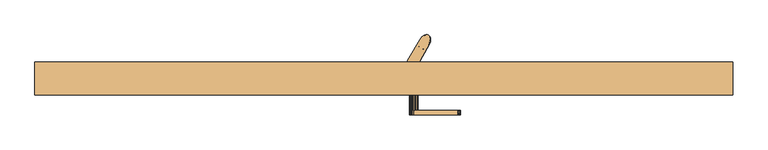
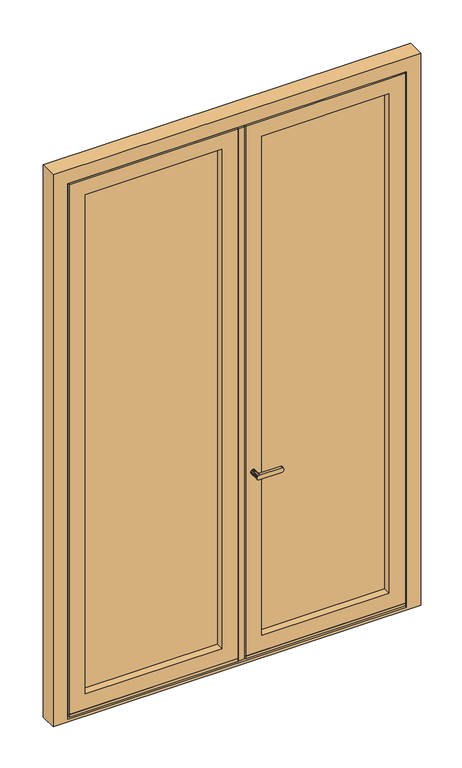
"""IFC4 building model written with IfcOpenShell, lengths in millimetres: door geometry, SAS ENTREE RDC 2x90."""

from ifc_helpers import new_model, si_unit, frame, origin, place, context, project, spatial, polyline, outline, extrude, faceted_brep, source, transform, mapped, element, save


def door_9c74e782(model_context):
    return source(origin(), model_context, "Body", "SolidModel", [
        extrude(outline(polyline([(1078.5704527, -24.0), (1774.5704527, -24.0), (1774.5704527, -62.0), (1078.5704527, -62.0), (1078.5704527, -24.0)])), frame((0.0, 0.0, 260.0), z_axis=(0.0, 0.0, 1.0), x_axis=(1.0, 0.0, 0.0)), (0.0, 0.0, 1.0), 2797.0),
        extrude(outline(polyline([(1001.5704527, -103.0), (969.5704527, -103.0), (969.5704527, -94.7), (1001.5704527, -94.7), (1001.5704527, -103.0)])), frame((0.0, 0.0, 176.0160203), z_axis=(0.0, 0.0, 1.0), x_axis=(1.0, 0.0, 0.0)), (0.0, 0.0, 1.0), 2950.9839797),
        extrude(outline(polyline([(899.5704527, -62.0), (153.0, -62.0), (153.0, -24.0), (899.5704527, -24.0), (899.5704527, -62.0)])), frame((0.0, 0.0, 260.0), z_axis=(0.0, 0.0, 1.0), x_axis=(1.0, 0.0, 0.0)), (0.0, 0.0, 1.0), 2797.0),
        faceted_brep([(1851.5704527, -103.0, 3134.0), (1851.5704527, -94.7, 3134.0), (1851.5704527, -94.7, 167.8651688), (1851.5704527, -103.0, 165.0072496), (76.0, -94.7, 3134.0), (76.0, -94.7, 167.8651688), (55.5, -94.7, 167.8651688), (55.5, -94.7, 3154.5), (1872.0704527, -94.7, 3154.5), (1872.0704527, -94.7, 167.8651688), (1872.0704527, -21.3, 3154.5), (1872.0704527, -21.3, 164.3), (1872.0704527, -81.0, 164.3), (1872.0704527, -81.0, 170.0), (1872.0704527, -88.5, 170.0), (1883.5704527, -13.0006635, 150.0), (1883.5704527, -21.3, 150.0), (1883.5704527, -21.3, 3166.0), (1883.5704527, -13.0006635, 3166.0), (1927.5704527, -13.0006635, 150.0), (44.0, -13.0006635, 3166.0), (44.0, -13.0006635, 150.0), (0.0, -13.0006635, 150.0), (0.0, -13.0006635, 3210.0), (1927.5704527, -13.0006635, 3210.0), (76.0, -103.0, 3134.0), (76.0, -103.0, 165.0072496), (44.0, -21.3, 3166.0), (44.0, -21.3, 150.0), (55.5, -21.3, 3154.5), (55.5, -88.5, 170.0), (55.5, -81.0, 170.0), (55.5, -81.0, 164.3), (55.5, -21.3, 164.3), (0.0, -103.0, 3210.0), (1927.5704527, -103.0, 3210.0), (1927.5704527, -103.0, 150.0), (0.0, -103.0, 150.0)], [[[0, 1, 2, 3]], [[1, 4, 5, 6, 7, 8, 9, 2]], [[8, 10, 11, 12, 13, 14, 9]], [[15, 16, 17, 18]], [[19, 15, 18, 20, 21, 22, 23, 24]], [[4, 25, 26, 5]], [[20, 27, 28, 21]], [[29, 7, 6, 30, 31, 32, 33]], [[25, 4, 1, 0]], [[27, 20, 18, 17]], [[23, 34, 35, 24]], [[8, 7, 29, 10]], [[19, 24, 35, 36]], [[34, 23, 22, 37]], [[35, 34, 37, 36], [25, 0, 3, 26]], [[16, 15, 19, 36, 37, 22, 21, 28]], [[14, 30, 6, 5, 26, 3, 2, 9]], [[27, 17, 16, 28], [11, 10, 29, 33]], [[32, 12, 11, 33]], [[12, 32, 31, 13]], [[13, 31, 30, 14]]]),
        faceted_brep([(997.0704527, -94.7, 3138.5), (997.0704527, -21.3, 3138.5), (997.0704527, -21.3, 178.5), (997.0704527, -94.7, 178.5), (976.5704527, -21.3, 3159.0), (976.5704527, -21.3, 158.0), (1876.5704527, -21.3, 158.0), (1876.5704527, -21.3, 3159.0), (1856.0704527, -21.3, 3138.5), (1856.0704527, -21.3, 178.5), (1856.0704527, -94.7, 178.5), (1856.0704527, -94.7, 3138.5), (1844.5704527, -94.7, 3127.0), (1844.5704527, -94.7, 190.0), (1008.5704527, -94.7, 190.0), (1008.5704527, -94.7, 3127.0), (1008.5704527, -103.0, 3127.0), (1008.5704527, -103.0, 190.0), (1844.5704527, -103.0, 190.0), (1844.5704527, -103.0, 3127.0), (1759.5704221, -103.0, 3041.9999695), (1759.5704221, -103.0, 275.0000305), (1093.5704832, -103.0, 275.0000305), (1093.5704832, -103.0, 3041.9999695), (1093.5704832, -62.0, 3041.9999695), (1093.5704832, -62.0, 275.0000305), (1759.5704221, -62.0, 275.0000305), (1774.5704527, -62.0, 3057.0), (1774.5704527, -62.0, 260.0), (1078.5704527, -62.0, 260.0), (1078.5704527, -62.0, 3057.0), (1759.5704221, -62.0, 3041.9999695), (1078.5704527, -24.0, 3057.0), (1078.5704527, -24.0, 260.0), (1774.5704527, -24.0, 260.0), (1774.5704527, -24.0, 3057.0), (1757.5704527, -24.0, 3040.0), (1757.5704527, -24.0, 277.0), (1095.5704527, -24.0, 277.0), (1095.5704527, -24.0, 3040.0), (1095.5704527, -13.0, 3040.0), (1095.5704527, -13.0, 277.0), (1757.5704527, -13.0, 277.0), (1876.5704527, -13.0, 3159.0), (1876.5704527, -13.0, 158.0), (976.5704527, -13.0, 158.0), (976.5704527, -13.0, 3159.0), (1757.5704527, -13.0, 3040.0)], [[[0, 1, 2, 3]], [[4, 5, 6, 7], [8, 9, 2, 1]], [[3, 2, 9, 10]], [[0, 3, 10, 11], [12, 13, 14, 15]], [[16, 15, 14, 17]], [[17, 14, 13, 18]], [[16, 17, 18, 19], [20, 21, 22, 23]], [[24, 23, 22, 25]], [[25, 22, 21, 26]], [[27, 28, 29, 30], [24, 25, 26, 31]], [[32, 30, 29, 33]], [[33, 29, 28, 34]], [[32, 33, 34, 35], [36, 37, 38, 39]], [[40, 39, 38, 41]], [[41, 38, 37, 42]], [[43, 44, 45, 46], [40, 41, 42, 47]], [[4, 46, 45, 5]], [[5, 45, 44, 6]], [[10, 9, 8, 11]], [[18, 13, 12, 19]], [[26, 21, 20, 31]], [[34, 28, 27, 35]], [[42, 37, 36, 47]], [[6, 44, 43, 7]], [[11, 8, 1, 0]], [[19, 12, 15, 16]], [[31, 20, 23, 24]], [[35, 27, 30, 32]], [[47, 36, 39, 40]], [[7, 43, 46, 4]]]),
        faceted_brep([(168.0000305, -62.0, 3041.9999695), (168.0000305, -103.0, 3041.9999695), (168.0000305, -103.0, 275.0000305), (168.0000305, -62.0, 275.0000305), (83.0, -103.0, 3127.0), (83.0, -103.0, 190.0), (969.5704527, -103.0, 190.0), (969.5704527, -103.0, 3127.0), (884.5704221, -103.0, 3041.9999695), (884.5704221, -103.0, 275.0000305), (884.5704221, -62.0, 275.0000305), (153.0, -62.0, 260.0), (153.0, -62.0, 3057.0), (899.5704527, -62.0, 3057.0), (899.5704527, -62.0, 260.0), (884.5704221, -62.0, 3041.9999695), (153.0, -24.0, 3057.0), (153.0, -24.0, 260.0), (899.5704527, -24.0, 260.0), (899.5704527, -24.0, 3057.0), (170.0, -24.0, 277.0), (170.0, -24.0, 3040.0), (882.5704527, -24.0, 3040.0), (882.5704527, -24.0, 277.0), (170.0, -13.0, 3040.0), (170.0, -13.0, 277.0), (882.5704527, -13.0, 277.0), (51.0, -13.0, 158.0), (51.0, -13.0, 3159.0), (969.5704527, -13.0, 3159.0), (969.5704527, -13.0, 158.0), (882.5704527, -13.0, 3040.0), (51.0, -21.3, 3159.0), (51.0, -21.3, 158.0), (969.5704527, -21.3, 158.0), (969.5704527, -21.3, 178.5), (71.5, -21.3, 178.5), (71.5, -21.3, 3138.5), (969.5704527, -21.3, 3138.5), (969.5704527, -21.3, 3159.0), (71.5, -94.7, 3138.5), (71.5, -94.7, 178.5), (981.0704527, -21.3, 178.5), (981.0704527, -94.7, 178.5), (981.0704527, -94.7, 3138.5), (83.0, -94.7, 190.0), (83.0, -94.7, 3127.0), (969.5704527, -94.7, 3127.0), (969.5704527, -94.7, 190.0), (981.0704527, -21.3, 3138.5)], [[[0, 1, 2, 3]], [[4, 5, 6, 7], [2, 1, 8, 9]], [[3, 2, 9, 10]], [[11, 12, 13, 14], [0, 3, 10, 15]], [[16, 12, 11, 17]], [[17, 11, 14, 18]], [[16, 17, 18, 19], [20, 21, 22, 23]], [[24, 21, 20, 25]], [[25, 20, 23, 26]], [[27, 28, 29, 30], [24, 25, 26, 31]], [[32, 28, 27, 33]], [[33, 27, 30, 34]], [[32, 33, 34, 35, 36, 37, 38, 39]], [[40, 37, 36, 41]], [[41, 36, 35, 42, 43]], [[40, 41, 43, 44], [45, 46, 47, 48]], [[4, 46, 45, 5]], [[5, 45, 48, 6]], [[10, 9, 8, 15]], [[18, 14, 13, 19]], [[26, 23, 22, 31]], [[43, 42, 49, 44]], [[1, 0, 15, 8]], [[12, 16, 19, 13]], [[21, 24, 31, 22]], [[28, 32, 39, 29]], [[37, 40, 44, 49, 38]], [[46, 4, 7, 47]], [[38, 35, 34, 30, 29, 39]], [[35, 38, 49, 42]], [[6, 48, 47, 7]]]),
        faceted_brep([(1091.7991957, 56.5957857, 3103.5), (1089.9094486, 59.5301259, 3103.5), (1087.3502122, 61.6325784, 3103.5), (1084.2498173, 62.7977178, 3103.5), (1080.7637307, 62.9671188, 3103.5), (1077.0667594, 62.1322872, 3103.5), (1073.3442849, 60.3350848, 3103.5), (1069.7829676, 57.6656309, 3103.5), (1066.5613869, 54.257783, 3103.5), (1063.8410862, 50.2824248, 3103.5), (1061.7584728, 45.9388975, 3103.5), (1060.4179777, 41.4450036, 3103.5), (1059.8868187, 37.0260857, 3103.5), (1060.1916306, 32.9037268, 3103.5), (1061.3171287, 29.2846393, 3103.5), (1063.2068759, 26.3502991, 3103.5), (1065.7661123, 24.2478466, 3103.5), (1068.8665071, 23.0827073, 3103.5), (1072.3525937, 22.9133062, 3103.5), (1076.049565, 23.7481378, 3103.5), (1079.7720396, 25.5453402, 3103.5), (1083.3333568, 28.2147941, 3103.5), (1086.5549376, 31.622642, 3103.5), (1089.2752383, 35.5980002, 3103.5), (1091.3578516, 39.9415275, 3103.5), (1092.6983468, 44.4354214, 3103.5), (1093.2295057, 48.8543393, 3103.5), (1092.9246939, 52.9766982, 3103.5), (1068.8665071, 23.0827073, 213.5), (1065.7661123, 24.2478466, 213.5), (1063.2068759, 26.3502991, 213.5), (1061.3171287, 29.2846393, 213.5), (1060.1916306, 32.9037268, 213.5), (1059.8868187, 37.0260857, 213.5), (1060.4179777, 41.4450036, 213.5), (1061.7584728, 45.9388975, 213.5), (1063.8410862, 50.2824248, 213.5), (1066.5613869, 54.257783, 213.5), (1069.7829676, 57.6656309, 213.5), (1073.3442849, 60.3350848, 213.5), (1077.0667594, 62.1322872, 213.5), (1080.7637307, 62.9671188, 213.5), (1084.2498173, 62.7977178, 213.5), (1087.3502122, 61.6325784, 213.5), (1089.9094486, 59.5301259, 213.5), (1091.7991957, 56.5957857, 213.5), (1092.9246939, 52.9766982, 213.5), (1093.2295057, 48.8543393, 213.5), (1092.6983468, 44.4354214, 213.5), (1091.3578516, 39.9415275, 213.5), (1089.2752383, 35.5980002, 213.5), (1086.5549376, 31.622642, 213.5), (1083.3333568, 28.2147941, 213.5), (1079.7720396, 25.5453402, 213.5), (1076.049565, 23.7481378, 213.5), (1072.3525937, 22.9133062, 213.5), (1087.1209854, 61.7609343, 3039.7612202), (1092.4619452, 54.8611962, 306.3237695), (1089.2752383, 35.5980002, 304.783489), (1078.9301597, 62.6737836, 3010.676228), (1078.9301582, 62.6737832, 297.4293988), (1085.8584944, 62.3371113, 368.0172447), (1073.8975018, 60.6633417, 369.3240477), (1080.3292739, 62.9198052, 446.6944318), (1088.7062148, 60.6929778, 2948.98274), (1093.2371765, 49.4975723, 2947.6759605), (1091.9806862, 56.1834463, 2875.4794892), (1086.2481362, 62.18144, 2387.972511), (1074.4721885, 60.9813242, 2433.366327), (1086.1883162, 62.2065607, 2478.1094389), (1089.2752383, 35.5980002, 3012.216511), (1063.8410862, 50.2824248, 3012.2165139), (1063.8410862, 50.2824248, 304.7834917), (1076.4602559, 61.90456, 2922.0327645), (1089.2752383, 35.5980002, 396.066978), (1093.0307284, 52.3375828, 394.9672499), (1087.5759854, 61.4982397, 277.2387736), (1077.0266332, 62.1179974, 1435.6433105), (1063.8410862, 50.2824248, 1400.1853585), (1063.8410862, 50.2824248, 1479.816978), (1063.8410862, 50.2824248, 1491.4688445), (1085.5101202, 62.4609039, 526.5775533), (1090.3785717, 58.9617113, 459.8390978), (1075.2369264, 61.3686784, 2789.8337304), (1085.0821002, 62.5941609, 2731.5722903), (1074.3099418, 60.8939051, 2701.4632106), (1092.4619444, 54.8611986, 3019.5705949), (1063.8410862, 50.2824248, 943.7679112), (1074.9719462, 61.2390529, 991.9541054), (1075.7221037, 61.5934845, 898.1262183), (1063.8410862, 50.2824248, 2920.9330222), (1063.8410862, 50.2824248, 2746.1339598), (1063.8410862, 50.2824248, 2829.649533), (1063.8410862, 50.2824248, 2833.533491), (1091.0038999, 58.0659174, 753.748835), (1093.2104353, 50.5037097, 806.8427277), (1093.2054769, 48.2518328, 715.5592395), (1087.8126466, 61.3485788, 2283.8905959), (1090.0835429, 59.3281065, 2186.2171541), (1075.8077605, 61.6314948, 2242.6546305), (1076.4110471, 61.8849811, 1613.8704529), (1088.4363082, 60.9071638, 1569.1585234), (1076.8220603, 62.0434335, 1517.9321883), (1093.1769016, 51.0285127, 2607.3749737), (1086.6511666, 62.0001544, 2567.4509478), (1087.1020652, 61.771178, 2656.7924568), (1088.4625465, 60.8869902, 938.4578574), (1087.3502122, 61.6325784, 1035.0514496), (1093.2362974, 49.2320884, 1881.8538044), (1089.2752383, 35.5980002, 1926.524533), (1089.2752383, 35.5980002, 1852.7188463), (1089.2752383, 35.5980002, 1837.183022), (1075.6623682, 61.5666791, 1085.9473652), (1078.3011062, 62.517869, 1168.8726905), (1088.5387979, 60.8275832, 1125.837811), (1088.6286842, 60.7560369, 1300.8775569), (1093.2283694, 50.0537925, 1256.4632408), (1088.4850519, 60.8695777, 1212.7139165), (1088.4363083, 60.9071638, 1658.5823811), (1087.8126467, 61.3485788, 1747.8415416), (1093.2162113, 50.3830403, 1705.6035919), (1093.2372442, 49.4091556, 2149.8783316), (1089.2752383, 35.5980002, 2194.5490659), (1089.2752383, 35.5980002, 2120.7433801), (1089.2752383, 35.5980002, 2105.2075549), (1074.6748041, 61.0879095, 1899.8226875), (1074.4624677, 60.9761385, 1808.0481216), (1063.8410862, 50.2824248, 1852.7188452), (1075.0361549, 61.2709086, 2612.1217017), (1093.2339742, 49.8128215, 1527.5583067), (1089.2752383, 35.5980002, 1569.158489), (1089.2752383, 35.5980002, 1491.4688485), (1089.2752383, 35.5980002, 1479.816978), (1086.895396, 61.879689, 1844.8045559), (1093.170584, 51.1083165, 1797.4267243), (1074.4655794, 60.9777992, 2522.7801928), (1063.8410862, 50.2824248, 2478.1094254), (1084.2135006, 62.8050118, 2868.0801076), (1088.5717657, 60.8015344, 2802.6217509), (1087.5327094, 61.5246154, 1475.3268617), (1063.8410862, 50.2824248, 852.4844195), (1089.2752383, 35.5980002, 1301.133956), (1089.2752383, 35.5980002, 1217.6183797), (1089.2752383, 35.5980002, 1211.7924451), (1074.9612481, 61.2337175, 1718.7066128), (1063.8410862, 50.2824248, 1763.3773338), (1093.2128573, 50.4549077, 2418.8738478), (1093.2115617, 50.481305, 2327.1169999), (1076.1879995, 61.7941617, 1263.2601666), (1063.8410862, 50.2824248, 1217.618375), (1063.8410862, 50.2824248, 1301.133956), (1063.8410862, 50.2824248, 1308.9018668), (1089.2752383, 35.5980002, 2373.2320879), (1063.8410862, 50.2824248, 1582.7523306), (1063.8410862, 50.2824248, 1658.5), (1063.8410862, 50.2824248, 1674.0358223), (1093.1881572, 50.8747832, 1077.7802226), (1093.225349, 50.1502613, 1167.1147796), (1093.212149, 50.4694262, 1349.0545448), (1093.1594418, 51.240021, 2510.1573349), (1089.2752383, 35.5980002, 2464.5155769), (1073.6679907, 60.5298181, 2076.0726483), (1075.3257706, 61.4110552, 1991.6458261), (1063.8410862, 50.2824248, 2031.4018682), (1089.8475711, 59.5995764, 682.8588012), (1089.2752383, 35.5980002, 578.633956), (1093.1612269, 51.219614, 532.9922607), (1093.2247016, 50.1692553, 621.3637247), (1087.5943164, 61.4869765, 1390.4755053), (1093.1421427, 51.4263296, 1441.7482187), (1093.1846099, 47.907579, 460.8624964), (1089.2752383, 35.5980002, 487.350467), (1074.2396743, 60.8554716, 511.4648929), (1070.6098057, 58.3765494, 453.7451278), (1088.2994022, 61.0102415, 603.806908), (1089.2752383, 35.5980002, 669.9174451), (1087.3502121, 61.6325785, 841.8642654), (1093.2332204, 49.8535427, 898.126215), (1077.2057235, 62.1809238, 659.1547405), (1072.1308721, 59.5368909, 806.8427306), (1073.9355212, 60.6850987, 2856.6324745), (1077.8905671, 62.4012707, 583.1880996), (1063.8410862, 50.2824248, 2656.7924484), (1063.8410862, 50.2824248, 2738.366044), (1093.149763, 51.3466495, 2699.940621), (1092.8753504, 45.3587256, 2866.1656853), (1093.234926, 49.7539259, 2807.3986574), (1063.8410862, 50.2824248, 2567.4509369), (1063.8410862, 50.2824248, 2647.0825549), (1063.8410862, 50.2824248, 2388.767914), (1063.8410862, 50.2824248, 2464.5155769), (1075.3191999, 61.4079398, 2334.4675158), (1063.8410862, 50.2824248, 2210.0848911), (1063.8410862, 50.2824248, 2283.8905769), (1063.8410862, 50.2824248, 2299.4264025), (1089.2752383, 35.5980002, 2388.7679138), (1089.2752383, 35.5980002, 2555.7990659), (1089.2752383, 35.5980002, 2478.1094232), (1089.2752383, 35.5980002, 2738.366044), (1089.2752383, 35.5980002, 2656.7924475), (1089.2752383, 35.5980002, 2647.0825549), (1093.1783644, 51.0094265, 2235.3144708), (1089.2752383, 35.5980002, 2283.8905769), (1090.5492227, 58.7345832, 2121.0154935), (1063.8410862, 50.2824248, 578.6339556), (1071.8864186, 59.3627096, 2165.4141571), (1063.8410862, 50.2824248, 2120.7433796), (1063.8410862, 50.2824248, 2194.5490659), (1092.2974639, 55.3594205, 2060.5368228), (1089.2752383, 35.5980002, 2031.4018707), (1089.2752383, 35.5980002, 2015.866044), (1093.199264, 50.7039869, 1971.1953135), (1084.5993621, 62.7208451, 2041.9850456), (1063.8410862, 50.2824248, 2555.7990659), (1089.2752383, 35.5980002, 2210.0848951), (1089.2752383, 35.5980002, 2299.4264044), (1089.2752383, 35.5980002, 1033.1094231), (1093.225326, 50.1509445, 988.4387133), (1089.2752383, 35.5980002, 2567.4509325), (1063.8410862, 50.2824248, 396.0669778), (1089.2752383, 35.5980002, 2829.649533), (1089.2752383, 35.5980002, 2920.933022), (1089.2752383, 35.5980002, 2746.1339569), (1089.2752383, 35.5980002, 761.2009341), (1082.935426, 62.9831179, 2138.6482318), (1071.3615587, 58.9730561, 719.6075288), (1063.8410862, 50.2824248, 669.9174473), (1081.0963306, 62.9937381, 754.3114731), (1063.8410862, 50.2824248, 761.2009334), (1089.2752383, 35.5980002, 852.4844231), (1089.2752383, 35.5980002, 943.7679121), (1063.8410862, 50.2824248, 1035.0514029), (1063.8410862, 50.2824248, 1126.334889), (1063.8410862, 50.2824248, 1211.7924451), (1074.7954478, 61.1500152, 1354.5436536), (1063.8410862, 50.2824248, 1390.475467), (1089.2752383, 35.5980002, 1122.4509341), (1089.2752383, 35.5980002, 1035.0514006), (1063.8410862, 50.2824248, 1122.4509341), (1063.8410862, 50.2824248, 1033.1094231), (1089.2752383, 35.5980002, 1126.3348901), (1089.2752383, 35.5980002, 1400.1853589), (1089.2752383, 35.5980002, 1390.475467), (1093.2256812, 50.1403125, 1613.8292772), (1089.2752383, 35.5980002, 1308.9018693), (1089.2752383, 35.5980002, 1658.5), (1089.2752383, 35.5980002, 1582.752338), (1089.2752383, 35.5980002, 1763.377337), (1089.2752383, 35.5980002, 1747.841511), (1063.8410862, 50.2824248, 1569.158489), (1089.2752383, 35.5980002, 1942.0603613), (1063.8410862, 50.2824248, 1747.841511), (1086.8730441, 61.891059, 1942.0603856), (1063.8410862, 50.2824248, 1837.183022), (1063.8410862, 50.2824248, 1942.0603567), (1063.8410862, 50.2824248, 2105.2075549), (1089.2752383, 35.5980002, 1674.0358276), (1063.8410862, 50.2824248, 2015.866044), (1063.8410862, 50.2824248, 1926.524533), (1063.8410862, 50.2824248, 487.3504639), (1063.8410862, 50.2824248, 2373.2320879), (1089.2752383, 35.5980002, 2833.5334917), (1065.9953391, 24.1194907, 3039.7612202), (1060.6543793, 31.0192288, 306.3237695), (1074.1861648, 23.2066414, 3010.676228), (1074.1861662, 23.2066418, 297.4293988), (1067.2578301, 23.5433137, 368.0172447), (1079.2188227, 25.2170833, 369.3240477), (1072.7870506, 22.9606198, 446.6944318), (1064.4101097, 25.1874472, 2948.98274), (1059.8791479, 36.3828527, 2947.6759605), (1061.1356383, 29.6969787, 2875.4794892), (1066.8681882, 23.698985, 2387.972511), (1078.644136, 24.8991008, 2433.366327), (1066.9280082, 23.6738643, 2478.1094389), (1076.6560685, 23.975865, 2922.0327645), (1060.0855961, 33.5428422, 394.9672499), (1065.5403391, 24.3821853, 277.2387736), (1076.0896912, 23.7624276, 1435.6433105), (1067.6062043, 23.4195211, 526.5775533), (1062.7377527, 26.9187137, 459.8390978), (1077.8793981, 24.5117466, 2789.8337304), (1068.0342243, 23.2862641, 2731.5722903), (1078.8063827, 24.9865199, 2701.4632106), (1060.65438, 31.0192264, 3019.5705949), (1078.1443782, 24.6413721, 991.9541054), (1077.3942208, 24.2869405, 898.1262183), (1062.1124246, 27.8145076, 753.748835), (1059.9058892, 35.3767153, 806.8427277), (1059.9108476, 37.6285922, 715.5592395), (1065.3036778, 24.5318462, 2283.8905959), (1063.0327816, 26.5523186, 2186.2171541), (1077.308564, 24.2489302, 2242.6546305), (1076.7052774, 23.9954439, 1613.8704529), (1064.6800163, 24.9732612, 1569.1585234), (1076.2942642, 23.8369915, 1517.9321883), (1059.9394228, 34.8519123, 2607.3749737), (1066.4651579, 23.8802706, 2567.4509478), (1066.0142593, 24.109247, 2656.7924568), (1064.653778, 24.9934348, 938.4578574), (1065.7661122, 24.2478466, 1035.0514496), (1059.880027, 36.6483366, 1881.8538044), (1077.4539563, 24.3137459, 1085.9473652), (1074.8152182, 23.362556, 1168.8726905), (1064.5775265, 25.0528418, 1125.837811), (1064.4876403, 25.1243881, 1300.8775569), (1059.8879551, 35.8266325, 1256.4632408), (1064.6312726, 25.0108473, 1212.7139165), (1064.6800162, 24.9732612, 1658.5823811), (1065.3036778, 24.5318462, 1747.8415416), (1059.9001132, 35.4973847, 1705.6035919), (1059.8790802, 36.4712695, 2149.8783316), (1078.4415204, 24.7925155, 1899.8226875), (1078.6538568, 24.9042865, 1808.0481216), (1078.0801695, 24.6095164, 2612.1217017), (1059.8823503, 36.0676035, 1527.5583067), (1066.2209284, 24.000736, 1844.8045559), (1059.9457405, 34.7721085, 1797.4267243), (1078.650745, 24.9026258, 2522.7801928), (1068.9028238, 23.0754132, 2868.0801076), (1064.5445587, 25.0788906, 2802.6217509), (1065.5836151, 24.3558096, 1475.3268617), (1078.1550763, 24.6467075, 1718.7066128), (1059.9034672, 35.4255173, 2418.8738478), (1059.9047627, 35.39912, 2327.1169999), (1076.928325, 24.0862633, 1263.2601666), (1059.9281672, 35.0056418, 1077.7802226), (1059.8909754, 35.7301637, 1167.1147796), (1059.9041755, 35.4109988, 1349.0545448), (1059.9568826, 34.640404, 2510.1573349), (1079.4483337, 25.3506069, 2076.0726483), (1077.7905539, 24.4693698, 1991.6458261), (1063.2687534, 26.2808486, 682.8588012), (1059.9550976, 34.660811, 532.9922607), (1059.8916228, 35.7111697, 621.3637247), (1065.5220081, 24.3934485, 1390.4755053), (1059.9741817, 34.4540954, 1441.7482187), (1059.9317145, 37.972846, 460.8624964), (1078.8766501, 25.0249534, 511.4648929), (1082.5065187, 27.5038756, 453.7451278), (1064.8169223, 24.8701835, 603.806908), (1065.7661124, 24.2478465, 841.8642654), (1059.8831041, 36.0268823, 898.126215), (1075.910601, 23.6995012, 659.1547405), (1080.9854524, 26.3435341, 806.8427306), (1079.1808033, 25.1953263, 2856.6324745), (1075.2257574, 23.4791543, 583.1880996), (1059.9665615, 34.5337755, 2699.940621), (1060.240974, 40.5216994, 2866.1656853), (1059.8813985, 36.1264991, 2807.3986574), (1077.7971246, 24.4724852, 2334.4675158), (1059.9379601, 34.8709985, 2235.3144708), (1062.5671018, 27.1458418, 2121.0154935), (1081.2299058, 26.5177154, 2165.4141571), (1060.8188606, 30.5210045, 2060.5368228), (1059.9170605, 35.1764381, 1971.1953135), (1068.5169624, 23.1595799, 2041.9850456), (1059.8909984, 35.7294805, 988.4387133), (1070.1808985, 22.8973071, 2138.6482318), (1081.7547658, 26.9073689, 719.6075288), (1072.0199938, 22.8866869, 754.3114731), (1078.3208766, 24.7304098, 1354.5436536), (1059.8906433, 35.7401125, 1613.8292772), (1066.2432803, 23.989366, 1942.0603856)], [[[0, 1, 2, 3, 4, 5, 6, 7, 8, 9, 10, 11, 12, 13, 14, 15, 16, 17, 18, 19, 20, 21, 22, 23, 24, 25, 26, 27]], [[28, 29, 30, 31, 32, 33, 34, 35, 36, 37, 38, 39, 40, 41, 42, 43, 44, 45, 46, 47, 48, 49, 50, 51, 52, 53, 54, 55]], [[2, 1, 56]], [[57, 58, 48]], [[59, 7, 6]], [[5, 4, 59]], [[38, 60, 39]], [[61, 62, 63]], [[4, 3, 56]], [[64, 65, 66]], [[40, 60, 41]], [[67, 68, 69]], [[24, 23, 70]], [[58, 50, 49]], [[71, 9, 8]], [[37, 36, 72]], [[73, 59, 64]], [[60, 40, 39]], [[74, 58, 75]], [[45, 76, 57]], [[77, 78, 79, 80]], [[71, 8, 7]], [[63, 81, 82]], [[83, 84, 85]], [[25, 86, 26]], [[24, 70, 25]], [[87, 88, 89]], [[75, 58, 57]], [[72, 62, 60]], [[5, 59, 6]], [[90, 71, 73]], [[70, 65, 86]], [[42, 41, 76]], [[46, 57, 47]], [[83, 91, 92, 93]], [[94, 95, 96]], [[43, 42, 76]], [[97, 98, 99]], [[86, 27, 26]], [[100, 101, 102]], [[4, 56, 59]], [[64, 56, 86]], [[103, 104, 105]], [[46, 45, 57]], [[58, 49, 48]], [[76, 41, 60]], [[59, 71, 7]], [[45, 44, 76]], [[56, 1, 0]], [[75, 57, 61]], [[61, 76, 60]], [[27, 86, 0]], [[47, 57, 48]], [[37, 72, 38]], [[106, 88, 107]], [[0, 86, 56]], [[38, 72, 60]], [[73, 71, 59]], [[64, 86, 65]], [[61, 60, 62]], [[25, 70, 86]], [[108, 109, 110, 111]], [[112, 113, 114]], [[115, 116, 117]], [[118, 119, 120]], [[121, 122, 123, 124]], [[125, 126, 127]], [[105, 104, 128]], [[129, 130, 131, 132]], [[133, 134, 119]], [[135, 68, 136]], [[137, 66, 138]], [[139, 101, 129]], [[89, 140, 87]], [[116, 141, 142, 143]], [[126, 144, 145]], [[146, 147, 67]], [[148, 149, 150, 151]], [[152, 147, 146]], [[134, 120, 119]], [[100, 153, 154, 155]], [[156, 114, 157]], [[116, 115, 158]], [[146, 159, 160]], [[161, 162, 163]], [[96, 164, 94]], [[165, 166, 167]], [[68, 135, 69]], [[104, 103, 159]], [[100, 144, 118]], [[168, 169, 158]], [[170, 171, 74]], [[172, 63, 173]], [[165, 171, 166]], [[167, 166, 174]], [[175, 167, 96]], [[166, 170, 82]], [[82, 81, 166]], [[176, 177, 95]], [[178, 164, 174]], [[176, 179, 89]], [[180, 93, 90]], [[181, 178, 174]], [[85, 182, 183, 91]], [[105, 184, 103]], [[66, 185, 186]], [[91, 83, 85]], [[180, 137, 83]], [[137, 138, 83]], [[187, 128, 135]], [[128, 187, 188, 182]], [[85, 84, 105]], [[85, 128, 182]], [[128, 85, 105]], [[68, 189, 190, 136]], [[69, 135, 104]], [[189, 68, 191]], [[67, 191, 68]], [[99, 192, 193, 194]], [[191, 99, 194]], [[67, 97, 191]], [[146, 160, 195, 152]], [[103, 196, 159]], [[159, 196, 197, 160]], [[67, 69, 146]], [[184, 198, 199, 200]], [[103, 184, 200]], [[159, 146, 69]], [[97, 67, 147]], [[97, 147, 201]], [[147, 202, 201]], [[97, 99, 191]], [[121, 203, 98]], [[181, 204, 178]], [[205, 206, 207, 192]], [[208, 124, 209, 210]], [[122, 121, 201]], [[208, 211, 212]], [[135, 136, 213, 187]], [[128, 104, 135]], [[159, 69, 104]], [[201, 202, 214, 122]], [[147, 152, 215, 202]], [[201, 121, 98]], [[216, 217, 156]], [[157, 116, 143]], [[121, 124, 208]], [[73, 64, 137]], [[138, 184, 84]], [[103, 200, 218, 196]], [[172, 81, 63]], [[219, 62, 72]], [[75, 61, 82]], [[62, 173, 63]], [[172, 181, 81]], [[186, 185, 220]], [[221, 65, 70]], [[198, 184, 186]], [[65, 185, 66]], [[186, 138, 66]], [[138, 186, 184]], [[186, 220, 222, 198]], [[96, 223, 175]], [[164, 167, 174]], [[175, 165, 167]], [[192, 99, 205]], [[224, 99, 98]], [[63, 82, 61]], [[170, 75, 82]], [[225, 178, 226]], [[81, 174, 166]], [[178, 227, 164]], [[174, 81, 181]], [[226, 178, 204]], [[140, 179, 228]], [[227, 178, 225]], [[176, 89, 106]], [[225, 228, 179]], [[88, 106, 89]], [[229, 223, 95]], [[216, 230, 217]], [[177, 229, 95]], [[229, 177, 230]], [[94, 227, 176]], [[107, 88, 112]], [[88, 231, 112]], [[107, 112, 114]], [[113, 232, 233, 149]], [[117, 148, 115]], [[232, 113, 112]], [[234, 151, 235, 78]], [[236, 156, 157]], [[156, 236, 237, 216]], [[106, 107, 217]], [[156, 217, 107]], [[106, 217, 177]], [[230, 177, 217]], [[176, 106, 177]], [[112, 231, 238, 232]], [[88, 87, 239, 231]], [[117, 157, 114]], [[157, 143, 240, 236]], [[158, 141, 116]], [[117, 116, 157]], [[169, 132, 241, 242]], [[158, 169, 242]], [[129, 243, 130]], [[102, 101, 139]], [[115, 168, 158]], [[234, 168, 115]], [[113, 117, 114]], [[114, 156, 107]], [[158, 242, 244, 141]], [[245, 243, 120]], [[243, 245, 246, 130]], [[243, 101, 118]], [[134, 111, 247, 248]], [[120, 134, 248]], [[243, 118, 120]], [[101, 100, 118]], [[144, 119, 118]], [[100, 102, 153]], [[102, 80, 249, 153]], [[211, 210, 250, 109]], [[111, 134, 108]], [[133, 108, 134]], [[126, 125, 133]], [[144, 155, 251, 145]], [[210, 211, 208]], [[133, 252, 108]], [[126, 145, 253, 127]], [[155, 144, 100]], [[133, 119, 126]], [[151, 234, 148]], [[168, 139, 169]], [[78, 77, 234]], [[144, 126, 119]], [[252, 133, 125]], [[252, 125, 162]], [[125, 254, 162]], [[148, 234, 115]], [[77, 139, 168]], [[212, 211, 252]], [[161, 163, 255, 206]], [[113, 148, 117]], [[148, 113, 149]], [[243, 129, 101]], [[169, 129, 132]], [[120, 248, 256, 245]], [[162, 254, 257, 163]], [[125, 127, 258, 254]], [[259, 204, 172]], [[181, 172, 204]], [[259, 172, 173]], [[108, 211, 109]], [[252, 211, 108]], [[161, 224, 212]], [[162, 161, 212]], [[224, 161, 205]], [[162, 212, 252]], [[203, 208, 212]], [[129, 169, 139]], [[102, 139, 77]], [[80, 102, 77]], [[234, 77, 168]], [[191, 194, 260, 189]], [[66, 137, 64]], [[180, 73, 137]], [[73, 180, 90]], [[180, 83, 93]], [[223, 96, 95]], [[164, 96, 167]], [[75, 170, 74]], [[171, 170, 166]], [[95, 94, 176]], [[94, 164, 227]], [[201, 98, 97]], [[224, 98, 203]], [[224, 203, 212]], [[208, 203, 121]], [[227, 179, 176]], [[179, 140, 89]], [[206, 205, 161]], [[224, 205, 99]], [[173, 219, 259]], [[219, 173, 62]], [[185, 221, 261, 220]], [[221, 185, 65]], [[43, 76, 44]], [[57, 76, 61]], [[2, 56, 3]], [[59, 56, 64]], [[105, 84, 184]], [[138, 84, 83]], [[227, 225, 179]], [[228, 225, 226]], [[16, 15, 262]], [[263, 72, 34]], [[264, 21, 20]], [[19, 18, 264]], [[52, 265, 53]], [[266, 267, 268]], [[18, 17, 262]], [[269, 270, 271]], [[54, 265, 55]], [[272, 273, 274]], [[10, 9, 71]], [[72, 36, 35]], [[70, 23, 22]], [[51, 50, 58]], [[275, 264, 269]], [[265, 54, 53]], [[219, 72, 276]], [[31, 277, 263]], [[278, 241, 132, 131]], [[70, 22, 21]], [[268, 279, 280]], [[281, 282, 283]], [[11, 284, 12]], [[10, 71, 11]], [[230, 285, 286]], [[276, 72, 263]], [[58, 267, 265]], [[19, 264, 20]], [[221, 70, 275]], [[71, 270, 284]], [[28, 55, 277]], [[32, 263, 33]], [[281, 222, 220, 261]], [[287, 288, 289]], [[29, 28, 277]], [[290, 291, 292]], [[284, 13, 12]], [[293, 294, 295]], [[18, 262, 264]], [[269, 262, 284]], [[296, 297, 298]], [[32, 31, 263]], [[72, 35, 34]], [[277, 55, 265]], [[264, 70, 21]], [[31, 30, 277]], [[262, 15, 14]], [[276, 263, 266]], [[266, 277, 265]], [[13, 284, 14]], [[33, 263, 34]], [[51, 58, 52]], [[299, 285, 300]], [[14, 284, 262]], [[52, 58, 265]], [[275, 70, 264]], [[269, 284, 270]], [[266, 265, 267]], [[11, 71, 284]], [[301, 258, 127, 253]], [[302, 303, 304]], [[305, 306, 307]], [[308, 309, 310]], [[311, 207, 206, 255]], [[312, 313, 110]], [[298, 297, 314]], [[315, 249, 80, 79]], [[316, 317, 309]], [[318, 273, 197]], [[319, 271, 320]], [[321, 294, 315]], [[286, 229, 230]], [[306, 150, 149, 233]], [[313, 322, 247]], [[323, 324, 272]], [[325, 142, 141, 244]], [[260, 324, 323]], [[317, 310, 309]], [[293, 246, 245, 256]], [[326, 304, 327]], [[306, 305, 328]], [[323, 329, 190]], [[330, 331, 209]], [[289, 332, 287]], [[204, 333, 334]], [[273, 318, 274]], [[297, 296, 329]], [[293, 322, 308]], [[335, 336, 328]], [[337, 259, 219]], [[338, 268, 339]], [[204, 259, 333]], [[334, 333, 340]], [[226, 334, 289]], [[333, 337, 280]], [[280, 279, 333]], [[341, 342, 288]], [[343, 332, 340]], [[341, 344, 286]], [[345, 261, 221]], [[346, 343, 340]], [[283, 199, 198, 222]], [[298, 347, 296]], [[271, 348, 349]], [[222, 281, 283]], [[345, 319, 281]], [[319, 320, 281]], [[218, 314, 318]], [[314, 218, 200, 199]], [[283, 282, 298]], [[283, 314, 199]], [[314, 283, 298]], [[273, 195, 160, 197]], [[274, 318, 297]], [[195, 273, 350]], [[272, 350, 273]], [[292, 214, 202, 215]], [[350, 292, 215]], [[272, 290, 350]], [[323, 190, 189, 260]], [[296, 213, 329]], [[329, 213, 136, 190]], [[272, 274, 323]], [[347, 183, 182, 188]], [[296, 347, 188]], [[329, 323, 274]], [[290, 272, 324]], [[290, 324, 351]], [[324, 193, 351]], [[290, 292, 350]], [[311, 352, 291]], [[346, 165, 343]], [[353, 123, 122, 214]], [[354, 255, 163, 257]], [[207, 311, 351]], [[354, 355, 356]], [[318, 197, 196, 218]], [[314, 297, 318]], [[329, 274, 297]], [[351, 193, 192, 207]], [[324, 260, 194, 193]], [[351, 311, 291]], [[239, 357, 326]], [[327, 306, 233]], [[311, 255, 354]], [[275, 269, 319]], [[320, 347, 282]], [[296, 188, 187, 213]], [[338, 279, 268]], [[74, 267, 58]], [[276, 266, 280]], [[267, 339, 268]], [[338, 346, 279]], [[349, 348, 92]], [[90, 270, 71]], [[183, 347, 349]], [[270, 348, 271]], [[349, 320, 271]], [[320, 349, 347]], [[349, 92, 91, 183]], [[289, 228, 226]], [[332, 334, 340]], [[226, 204, 334]], [[214, 292, 353]], [[358, 292, 291]], [[268, 280, 266]], [[337, 276, 280]], [[359, 343, 175]], [[279, 340, 333]], [[343, 360, 332]], [[340, 279, 346]], [[175, 343, 165]], [[229, 344, 223]], [[360, 343, 359]], [[341, 286, 299]], [[359, 223, 344]], [[285, 299, 286]], [[140, 228, 288]], [[239, 87, 357]], [[342, 140, 288]], [[140, 342, 87]], [[287, 360, 341]], [[300, 285, 302]], [[285, 237, 302]], [[300, 302, 304]], [[303, 240, 143, 142]], [[307, 325, 305]], [[240, 303, 302]], [[361, 244, 242, 241]], [[238, 326, 327]], [[326, 238, 231, 239]], [[299, 300, 357]], [[326, 357, 300]], [[299, 357, 342]], [[87, 342, 357]], [[341, 299, 342]], [[302, 237, 236, 240]], [[285, 230, 216, 237]], [[307, 327, 304]], [[327, 233, 232, 238]], [[328, 150, 306]], [[307, 306, 327]], [[336, 79, 78, 235]], [[328, 336, 235]], [[315, 362, 249]], [[295, 294, 321]], [[305, 335, 328]], [[361, 335, 305]], [[303, 307, 304]], [[304, 326, 300]], [[328, 235, 151, 150]], [[154, 362, 310]], [[362, 154, 153, 249]], [[362, 294, 308]], [[317, 253, 145, 251]], [[310, 317, 251]], [[362, 308, 310]], [[294, 293, 308]], [[322, 309, 308]], [[293, 295, 246]], [[295, 131, 130, 246]], [[355, 257, 254, 258]], [[253, 317, 301]], [[316, 301, 317]], [[313, 312, 316]], [[322, 256, 248, 247]], [[257, 355, 354]], [[316, 363, 301]], [[313, 247, 111, 110]], [[256, 322, 293]], [[316, 309, 313]], [[244, 361, 325]], [[335, 321, 336]], [[241, 278, 361]], [[322, 313, 309]], [[363, 316, 312]], [[363, 312, 331]], [[312, 250, 331]], [[325, 361, 305]], [[278, 321, 335]], [[356, 355, 363]], [[330, 209, 124, 123]], [[303, 325, 307]], [[325, 303, 142]], [[362, 315, 294]], [[336, 315, 79]], [[310, 251, 155, 154]], [[331, 250, 210, 209]], [[312, 110, 109, 250]], [[171, 165, 338]], [[346, 338, 165]], [[171, 338, 339]], [[301, 355, 258]], [[363, 355, 301]], [[330, 358, 356]], [[331, 330, 356]], [[358, 330, 353]], [[331, 356, 363]], [[352, 354, 356]], [[315, 336, 321]], [[295, 321, 278]], [[131, 295, 278]], [[361, 278, 335]], [[350, 215, 152, 195]], [[271, 319, 269]], [[345, 275, 319]], [[275, 345, 221]], [[345, 281, 261]], [[228, 289, 288]], [[332, 289, 334]], [[276, 337, 219]], [[259, 337, 333]], [[288, 287, 341]], [[287, 332, 360]], [[351, 291, 290]], [[358, 291, 352]], [[358, 352, 356]], [[354, 352, 311]], [[360, 344, 341]], [[344, 229, 286]], [[123, 353, 330]], [[358, 353, 292]], [[339, 74, 171]], [[74, 339, 267]], [[348, 90, 93, 92]], [[90, 348, 270]], [[29, 277, 30]], [[263, 277, 266]], [[16, 262, 17]], [[264, 262, 269]], [[298, 282, 347]], [[320, 282, 281]], [[360, 359, 344]], [[223, 359, 175]]]),
        faceted_brep([(1038.0932105, -103.0, 1208.4772421), (1040.5761373, -103.0, 1210.3824588), (1043.4675667, -103.0, 1211.5801281), (1046.5704527, -103.0, 1211.9886308), (1049.6733386, -103.0, 1211.5801281), (1052.5647681, -103.0, 1210.3824588), (1055.0476948, -103.0, 1208.4772421), (1056.9529115, -103.0, 1205.9943154), (1058.1505808, -103.0, 1203.102886), (1058.5590835, -103.0, 1200.0), (1058.1505808, -103.0, 1196.897114), (1056.9529115, -103.0, 1194.0056846), (1055.0476948, -103.0, 1191.5227579), (1052.5647681, -103.0, 1189.6175412), (1049.6733386, -103.0, 1188.4198719), (1046.5704527, -103.0, 1188.0113692), (1043.4675667, -103.0, 1188.4198719), (1040.5761373, -103.0, 1189.6175412), (1038.0932105, -103.0, 1191.5227579), (1036.1879938, -103.0, 1194.0056846), (1034.9903245, -103.0, 1196.897114), (1034.5818218, -103.0, 1200.0), (1034.9903245, -103.0, 1203.102886), (1036.1879938, -103.0, 1205.9943154), (1049.6733386, -146.4998825, 1188.4198719), (1046.5704527, -146.4998825, 1188.0113692), (1052.5647681, -146.4998825, 1189.6175412), (1056.9529115, -146.4998825, 1194.0056846), (1055.0476948, -146.4998825, 1191.5227579), (1058.1505808, -146.4998825, 1196.897114), (1058.5590835, -146.4998825, 1200.0), (1058.1505808, -146.4998825, 1203.102886), (1056.9529115, -146.4998825, 1205.9943154), (1052.5647681, -146.4998825, 1210.3824588), (1055.0476948, -146.4998825, 1208.4772421), (1049.6733386, -146.4998825, 1211.5801281), (1046.5704527, -146.4998825, 1211.9886308), (1043.4675667, -158.9999695, 1211.5801281), (1046.5704527, -158.9999695, 1211.9886308), (1040.5761373, -158.9999695, 1210.3824588), (1036.1879938, -158.9999695, 1205.9943154), (1038.0932105, -158.9999695, 1208.4772421), (1034.9903245, -158.9999695, 1203.102886), (1034.5818218, -158.9999695, 1200.0), (1034.9903245, -158.9999695, 1196.897114), (1036.1879938, -158.9999695, 1194.0056846), (1040.5761373, -158.9999695, 1189.6175412), (1038.0932105, -158.9999695, 1191.5227579), (1043.4675667, -158.9999695, 1188.4198719), (1046.5704527, -158.9999695, 1188.0113692), (1168.2322453, -158.9999695, 1188.0113692), (1169.7744498, -158.9999695, 1188.2417274), (1171.2573882, -158.9999695, 1188.9239494), (1172.6240721, -158.9999695, 1190.0318178), (1173.8219806, -158.9999695, 1191.5227579), (1174.8050787, -158.9999695, 1193.3394736), (1175.5355864, -158.9999695, 1195.4121496), (1175.9854309, -158.9999695, 1197.6611342), (1176.1373248, -158.9999695, 1200.0), (1175.9854309, -158.9999695, 1202.3388658), (1175.5355864, -158.9999695, 1204.5878504), (1174.8050787, -158.9999695, 1206.6605264), (1173.8219806, -158.9999695, 1208.4772421), (1172.6240721, -158.9999695, 1209.9681822), (1171.2573882, -158.9999695, 1211.0760506), (1169.7744498, -158.9999695, 1211.7582726), (1168.2322453, -158.9999695, 1211.9886308), (1175.5355864, -146.4998825, 1195.4121496), (1174.8050787, -146.4998825, 1193.3394736), (1173.8219806, -146.4998825, 1191.5227579), (1172.6240721, -146.4998825, 1190.0318178), (1171.2573882, -146.4998825, 1188.9239494), (1169.7744498, -146.4998825, 1188.2417274), (1168.2322453, -146.4998825, 1188.0113692), (1168.2322453, -146.4998825, 1211.9886308), (1169.7744498, -146.4998825, 1211.7582726), (1171.2573882, -146.4998825, 1211.0760506), (1172.6240721, -146.4998825, 1209.9681822), (1173.8219806, -146.4998825, 1208.4772421), (1174.8050787, -146.4998825, 1206.6605264), (1175.5355864, -146.4998825, 1204.5878504), (1175.9854309, -146.4998825, 1202.3388658), (1176.1373248, -146.4998825, 1200.0), (1175.9854309, -146.4998825, 1197.6611342), (1168.2322453, -151.9243401, 1188.0113692), (1171.9586739, -152.7499239, 1189.4269715), (1174.3429544, -152.7499257, 1192.3944932), (1175.7969347, -152.749926, 1196.5198842), (1175.203903, -152.749926, 1205.6514014), (1176.0992596, -152.7499259, 1201.1750915), (1170.5269687, -152.749926, 1211.4724044), (1173.2471746, -152.749926, 1209.2673369), (1168.2322453, -152.749926, 1211.9886308)], [[[0, 1, 2, 3, 4, 5, 6, 7, 8, 9, 10, 11, 12, 13, 14, 15, 16, 17, 18, 19, 20, 21, 22, 23]], [[14, 24, 25, 15]], [[13, 26, 24, 14]], [[27, 28, 12, 11]], [[13, 12, 28, 26]], [[29, 27, 11, 10]], [[30, 29, 10, 9]], [[8, 31, 30, 9]], [[7, 32, 31, 8]], [[33, 34, 6, 5]], [[7, 6, 34, 32]], [[35, 33, 5, 4]], [[36, 35, 4, 3]], [[2, 37, 38, 36, 3]], [[1, 39, 37, 2]], [[23, 40, 41, 0]], [[1, 0, 41, 39]], [[22, 42, 40, 23]], [[21, 43, 42, 22]], [[20, 44, 43, 21]], [[19, 45, 44, 20]], [[17, 46, 47, 18]], [[19, 18, 47, 45]], [[16, 48, 46, 17]], [[25, 49, 48, 16, 15]], [[45, 47, 46, 48, 49, 50, 51, 52, 53, 54, 55, 56, 57, 58, 59, 60, 61, 62, 63, 64, 65, 66, 38, 37, 39, 41, 40, 42, 43, 44]], [[67, 68, 69, 70, 71, 72, 73, 25, 24, 26, 28, 27, 29, 30, 31, 32, 34, 33, 35, 36, 74, 75, 76, 77, 78, 79, 80, 81, 82, 83]], [[49, 25, 73, 84, 50]], [[85, 52, 51]], [[53, 85, 86]], [[67, 87, 68]], [[69, 86, 70]], [[80, 88, 81]], [[72, 85, 84]], [[57, 56, 87]], [[60, 59, 89]], [[86, 87, 56]], [[76, 90, 91, 77]], [[86, 55, 54]], [[79, 78, 91, 88]], [[58, 87, 89]], [[70, 85, 71]], [[84, 73, 72]], [[50, 84, 51]], [[85, 72, 71]], [[58, 57, 87]], [[52, 85, 53]], [[86, 56, 55]], [[86, 54, 53]], [[68, 86, 69]], [[86, 85, 70]], [[74, 92, 75]], [[92, 66, 65]], [[62, 61, 88, 91]], [[87, 86, 68]], [[85, 51, 84]], [[87, 67, 83]], [[91, 90, 64, 63]], [[89, 87, 83]], [[61, 60, 88]], [[89, 88, 60]], [[90, 65, 64]], [[63, 62, 91]], [[89, 83, 82]], [[81, 89, 82]], [[88, 89, 81]], [[79, 88, 80]], [[90, 92, 65]], [[78, 77, 91]], [[75, 90, 76]], [[75, 92, 90]], [[59, 58, 89]], [[38, 66, 92, 74, 36]]]),
        extrude(outline(polyline([(1008.5704527, -103.0), (1008.5704527, -94.7), (1844.5704527, -94.7), (1844.5704527, -103.0), (1008.5704527, -103.0)])), frame((0.0, 0.0, 176.0), z_axis=(0.0, 0.0, 1.0), x_axis=(1.0, 0.0, 0.0)), (0.0, 0.0, 1.0), 14.0),
        faceted_brep([(1029.6143522, -13.0, 3073.5), (1029.6143522, -9.0, 3073.5), (1063.5265531, -9.0, 3073.5), (1063.5265531, -13.0, 3073.5), (1029.6143522, -9.0, 3103.5), (1063.5265531, -9.0, 3103.5), (1063.5265531, -9.0, 3107.5), (1063.5265531, -13.0, 3107.5), (1029.6143522, -13.0, 3107.5), (1029.6143522, -9.0, 3107.5), (1063.8410862, 50.2824248, 3103.5), (1066.5613869, 54.257783, 3103.5), (1069.7829676, 57.6656309, 3103.5), (1073.3442849, 60.3350848, 3103.5), (1077.0667594, 62.1322872, 3103.5), (1080.7637307, 62.9671188, 3103.5), (1084.2498173, 62.7977178, 3103.5), (1087.3502122, 61.6325784, 3103.5), (1089.9094486, 59.5301259, 3103.5), (1091.7991957, 56.5957857, 3103.5), (1092.9246939, 52.9766982, 3103.5), (1093.2295057, 48.8543393, 3103.5), (1092.6983468, 44.4354214, 3103.5), (1091.3578516, 39.9415275, 3103.5), (1089.2752383, 35.5980002, 3103.5), (1089.9094486, 59.5301259, 3107.5), (1087.3502122, 61.6325784, 3107.5), (1084.2498173, 62.7977178, 3107.5), (1080.7637307, 62.9671188, 3107.5), (1077.0667594, 62.1322872, 3107.5), (1073.3442849, 60.3350848, 3107.5), (1069.7829676, 57.6656309, 3107.5), (1066.5613869, 54.257783, 3107.5), (1063.8410862, 50.2824248, 3107.5), (1089.2752383, 35.5980002, 3107.5), (1091.3578516, 39.9415275, 3107.5), (1092.6983468, 44.4354214, 3107.5), (1093.2295057, 48.8543393, 3107.5), (1092.9246939, 52.9766982, 3107.5), (1091.7991957, 56.5957857, 3107.5), (1063.8410862, 50.2824248, 3105.9099144), (1089.2752383, 35.5980002, 3105.0900854), (1090.9447824, 58.1586458, 3105.5), (1078.9301608, 62.6737838, 3105.5), (1093.2150103, 48.4468931, 3105.5)], [[[0, 1, 2, 3]], [[2, 1, 4, 5]], [[3, 2, 5, 6, 7]], [[0, 3, 7, 8]], [[1, 0, 8, 9, 4]], [[5, 4, 10, 11, 12, 13, 14, 15, 16, 17, 18, 19, 20, 21, 22, 23, 24]], [[25, 26, 27, 28, 29, 30, 31, 32, 33, 9, 8, 7, 6, 34, 35, 36, 37, 38, 39]], [[4, 9, 33, 40, 10]], [[5, 24, 41, 34, 6]], [[40, 33, 32]], [[11, 10, 40]], [[39, 42, 25]], [[43, 12, 40]], [[40, 12, 11]], [[43, 15, 14]], [[30, 43, 31]], [[28, 43, 29]], [[17, 16, 43]], [[41, 24, 23]], [[35, 34, 41]], [[13, 43, 14]], [[32, 31, 40]], [[16, 15, 43]], [[20, 19, 42]], [[13, 12, 43]], [[35, 41, 44]], [[30, 29, 43]], [[28, 27, 43]], [[40, 31, 43]], [[26, 43, 27]], [[17, 43, 42]], [[19, 18, 42]], [[20, 44, 21]], [[23, 22, 41]], [[22, 44, 41]], [[21, 44, 22]], [[44, 36, 35]], [[42, 43, 26]], [[17, 42, 18]], [[42, 26, 25]], [[38, 42, 39]], [[44, 42, 38]], [[20, 42, 44]], [[38, 37, 44]], [[37, 36, 44]]]),
        faceted_brep([(1063.5265531, -13.0, 243.5), (1063.5265531, -9.0, 243.5), (1029.6143522, -9.0, 243.5), (1029.6143522, -13.0, 243.5), (1063.5265531, -9.0, 213.5), (1029.6143522, -9.0, 213.5), (1063.5265531, -13.0, 209.5), (1063.5265531, -9.0, 209.5), (1029.6143522, -13.0, 209.5), (1029.6143522, -9.0, 209.5), (1089.9094475, 59.5301271, 213.5), (1087.3502106, 61.6325794, 213.5), (1084.2498152, 62.7977182, 213.5), (1080.7637281, 62.9671186, 213.5), (1077.0667564, 62.1322861, 213.5), (1073.3442817, 60.3350828, 213.5), (1069.7829643, 57.6656279, 213.5), (1066.5613838, 54.2577791, 213.5), (1063.8410835, 50.2824201, 213.5), (1089.2752383, 35.5980002, 213.5), (1091.3578518, 39.9415279, 213.5), (1092.698347, 44.4354221, 213.5), (1093.2295057, 48.8543403, 213.5), (1092.9246936, 52.9766994, 213.5), (1091.7991951, 56.5957871, 213.5), (1063.8410835, 50.2824201, 209.5), (1066.5613838, 54.2577791, 209.5), (1069.7829643, 57.6656279, 209.5), (1073.3442817, 60.3350828, 209.5), (1077.0667564, 62.1322861, 209.5), (1080.7637281, 62.9671186, 209.5), (1084.2498152, 62.7977182, 209.5), (1087.3502106, 61.6325794, 209.5), (1089.9094475, 59.5301271, 209.5), (1091.7991951, 56.5957871, 209.5), (1092.9246936, 52.9766994, 209.5), (1093.2295057, 48.8543403, 209.5), (1092.698347, 44.4354221, 209.5), (1091.3578518, 39.9415279, 209.5), (1089.2752383, 35.5980002, 209.5), (1063.8410835, 50.2824201, 211.9099144), (1089.2752383, 35.5980002, 211.0900853), (1090.9447816, 58.1586471, 211.5), (1078.9301579, 62.6737832, 211.5), (1093.2150104, 48.4468941, 211.5)], [[[0, 1, 2, 3]], [[4, 5, 2, 1]], [[6, 7, 4, 1, 0]], [[8, 6, 0, 3]], [[9, 8, 3, 2, 5]], [[10, 11, 12, 13, 14, 15, 16, 17, 18, 5, 4, 19, 20, 21, 22, 23, 24]], [[6, 8, 9, 25, 26, 27, 28, 29, 30, 31, 32, 33, 34, 35, 36, 37, 38, 39, 7]], [[9, 5, 18, 40, 25]], [[7, 39, 41, 19, 4]], [[40, 18, 17]], [[26, 25, 40]], [[24, 42, 10]], [[43, 27, 40]], [[40, 27, 26]], [[43, 30, 29]], [[15, 43, 16]], [[13, 43, 14]], [[32, 31, 43]], [[41, 39, 38]], [[20, 19, 41]], [[28, 43, 29]], [[17, 16, 40]], [[31, 30, 43]], [[35, 34, 42]], [[28, 27, 43]], [[20, 41, 44]], [[15, 14, 43]], [[13, 12, 43]], [[40, 16, 43]], [[11, 43, 12]], [[32, 43, 42]], [[34, 33, 42]], [[35, 44, 36]], [[38, 37, 41]], [[37, 44, 41]], [[36, 44, 37]], [[44, 21, 20]], [[42, 43, 11]], [[32, 42, 33]], [[42, 11, 10]], [[23, 42, 24]], [[44, 42, 23]], [[35, 42, 44]], [[23, 22, 44]], [[22, 21, 44]]]),
        extrude(outline(polyline([(83.0, -103.0), (83.0, -94.7), (969.5704527, -94.7), (969.5704527, -103.0), (83.0, -103.0)])), frame((0.0, 0.0, 176.0160203), z_axis=(0.0, 0.0, 1.0), x_axis=(1.0, 0.0, 0.0)), (0.0, 0.0, 1.0), 13.9839797),
    ])


if __name__ == "__main__":
    model = new_model("IFC4")
    model_context = context("Model", 3, world=origin())
    ifc_project = project(units=[si_unit("LENGTHUNIT", "METRE", prefix="MILLI")], contexts=[model_context])
    site = spatial("IfcSite", under=ifc_project)
    building = spatial("IfcBuilding", under=site)
    placement = place(None, origin())
    door_shape = door_9c74e782(model_context)
    element("IfcDoor", 1, ObjectType="SAS ENTREE RDC 2x90", at=placement, inside=building, context=model_context, shape_type="MappedRepresentation", body=[
        mapped(door_shape, transform((0.0, 0.0, 0.0), x_axis=(1.0, 0.0, 0.0), y_axis=(0.0, 1.0, 0.0), z_axis=(0.0, 0.0, 1.0))),
    ])
    save(model, "model.ifc")
